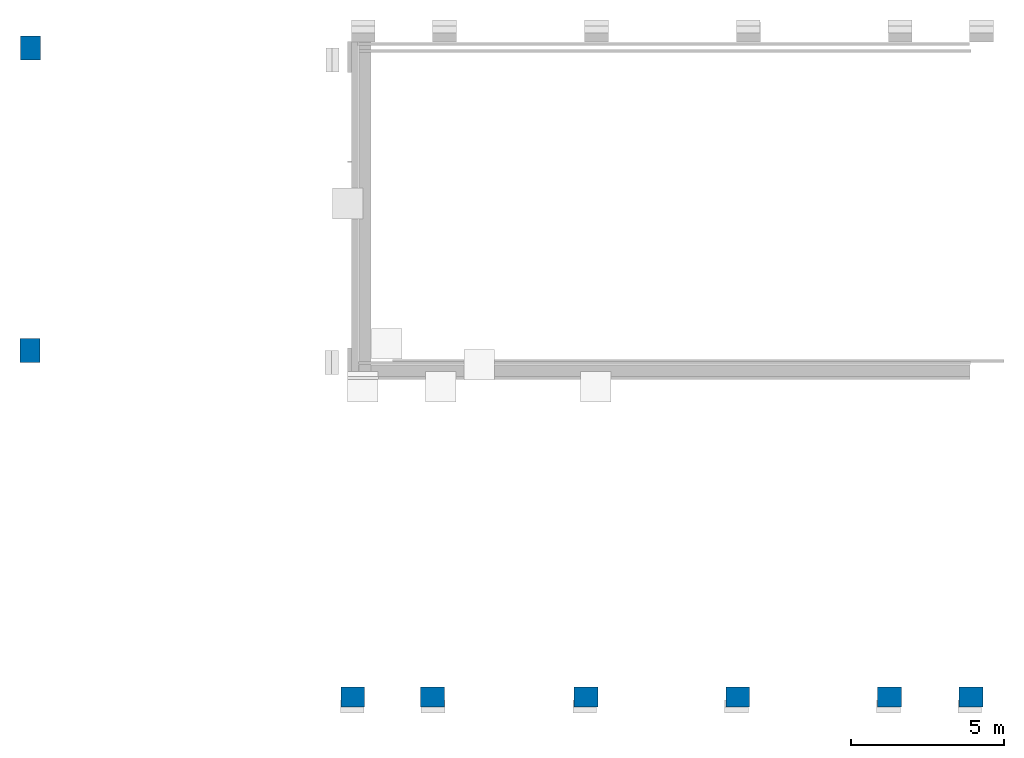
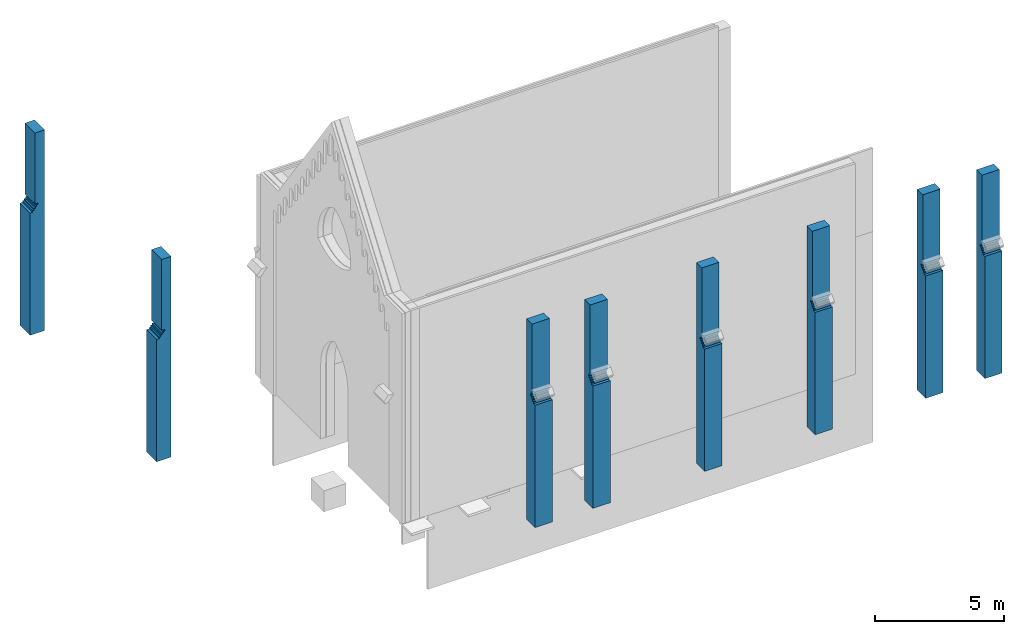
# Not in any storey, part 2 of 5: 8 walls.
"""IFC4 model written with IfcOpenShell, lengths in metres."""

import ifcopenshell
import ifcopenshell.guid

model = None  # the IFC model being written
_history = None  # IfcOwnerHistory: only IFC2X3 demands one
_inside = {}  # id of a spatial element -> (the spatial element, [elements in it])
_under = {}  # id of a project, library or spatial element -> (it, [spatial elements below it])
_declared = {}  # id of a project -> (the project, [libraries it declares])
_typed = {}  # id of a type object -> (the type object, [elements of that type])
_made_of = {}  # id of a material, layer set ... -> (it, [elements and type objects made of it])


def new_model(schema):
    """Start an empty IFC model of exactly this schema.

    Asked for "IFC4X3", IfcOpenShell would pick the latest addendum, in which some entities
    have other attributes; the version numbers below select the first issue.
    IFC2X3 requires an IfcOwnerHistory on every rooted entity: one is made here for all.
    """
    global model, _history
    if schema == "IFC4X3":
        model = ifcopenshell.file(schema_version=(4, 3, 0, 0))
    else:
        model = ifcopenshell.file(schema=schema)
    _inside.clear()
    _under.clear()
    _declared.clear()
    _typed.clear()
    _made_of.clear()
    _history = None
    if model.schema == "IFC2X3":
        org = make("IfcOrganization", Name="unknown")
        user = make(
            "IfcPersonAndOrganization",
            ThePerson=make("IfcPerson", FamilyName="unknown"),
            TheOrganization=org,
        )
        app = make(
            "IfcApplication",
            ApplicationDeveloper=org,
            Version="unknown",
            ApplicationFullName="unknown",
            ApplicationIdentifier="unknown",
        )
        _history = make(
            "IfcOwnerHistory",
            OwningUser=user,
            OwningApplication=app,
            ChangeAction="ADDED",
            CreationDate=0,
        )
    return model


def make(cls, **values):
    """One entity of the class cls with the attributes given. An attribute that is None is left unset."""
    return model.create_entity(
        cls, **{name: value for name, value in values.items() if value is not None}
    )


def entity(cls, *values):
    """Any entity or typed value of the class cls, its attributes in the order of the schema. None: left unset."""
    e = model.create_entity(cls)
    for i, value in enumerate(values):
        if value is not None:
            e[i] = value
    return e


def rooted(cls, **values):
    """An entity with a GlobalId (a new one), such as an element, a storey or a relation."""
    return make(cls, GlobalId=ifcopenshell.guid.new(), OwnerHistory=_history, **values)


def si_unit(unit_type, name, prefix=None):
    """IfcSIUnit, for example si_unit("LENGTHUNIT", "METRE", prefix="MILLI")."""
    return make("IfcSIUnit", UnitType=unit_type, Prefix=prefix, Name=name)


def converted_unit(unit_type, name, factor, base, dimensions=None, offset=None):
    """IfcConversionBasedUnit, such as the inch: factor (a typed value) times the base unit."""
    return make(
        "IfcConversionBasedUnit"
        if offset is None
        else "IfcConversionBasedUnitWithOffset",
        ConversionOffset=offset,
        Dimensions=None
        if dimensions is None
        else entity("IfcDimensionalExponents", *dimensions),
        UnitType=unit_type,
        Name=name,
        ConversionFactor=make(
            "IfcMeasureWithUnit", ValueComponent=factor, UnitComponent=base
        ),
    )


def assignment(units):
    """IfcUnitAssignment: the units of a project."""
    return None if units is None else make("IfcUnitAssignment", Units=units)


def point(xyz):
    """IfcCartesianPoint."""
    return None if xyz is None else make("IfcCartesianPoint", Coordinates=xyz)


def direction(xyz):
    """IfcDirection."""
    return None if xyz is None else make("IfcDirection", DirectionRatios=xyz)


def frame(location, z_axis=None, x_axis=None):
    """IfcAxis2Placement3D, a coordinate frame: its origin and axes. An axis left out is left unset."""
    return make(
        "IfcAxis2Placement3D",
        Location=point(location),
        Axis=direction(z_axis),
        RefDirection=direction(x_axis),
    )


def frame_2d(location, x_axis=None):
    """IfcAxis2Placement2D, a coordinate frame in the plane: its origin and x axis."""
    return make(
        "IfcAxis2Placement2D", Location=point(location), RefDirection=direction(x_axis)
    )


def origin_with_axes():
    """The frame at (0, 0, 0) with the z axis (0, 0, 1) and the x axis (1, 0, 0) written out."""
    return frame((0.0, 0.0, 0.0), z_axis=(0.0, 0.0, 1.0), x_axis=(1.0, 0.0, 0.0))


def origin_2d_with_axis():
    """The frame at (0, 0) in the plane with the x axis (1, 0) written out."""
    return frame_2d((0.0, 0.0), x_axis=(1.0, 0.0))


def place(relative_to, where):
    """IfcLocalPlacement: puts the frame where relative to a parent placement (None: the world)."""
    return make(
        "IfcLocalPlacement", PlacementRelTo=relative_to, RelativePlacement=where
    )


def context(
    kind, dimensions, precision=None, world=None, true_north=None, identifier=None
):
    """IfcGeometricRepresentationContext, for example the 3D "Model" context."""
    return make(
        "IfcGeometricRepresentationContext",
        ContextIdentifier=identifier,
        ContextType=kind,
        CoordinateSpaceDimension=dimensions,
        Precision=precision,
        WorldCoordinateSystem=world,
        TrueNorth=true_north,
    )


def subcontext(parent, identifier, kind, view, scale=None):
    """IfcGeometricRepresentationSubContext, for example "Body" below "Model"."""
    return make(
        "IfcGeometricRepresentationSubContext",
        ContextIdentifier=identifier,
        ContextType=kind,
        ParentContext=parent,
        TargetScale=scale,
        TargetView=view,
    )


def project(units=None, contexts=None):
    """IfcProject with its units and contexts."""
    return rooted(
        "IfcProject",
        Name="project",
        RepresentationContexts=contexts,
        UnitsInContext=assignment(units),
    )


def point_list(points):
    """IfcCartesianPointList2D or 3D."""
    cls = (
        "IfcCartesianPointList2D" if len(points[0]) == 2 else "IfcCartesianPointList3D"
    )
    return make(cls, CoordList=points)


def polygons(points, faces, closed=None, point_numbers=None):
    """IfcPolygonalFaceSet: a face is its outer loop, then its inner loops; points numbered from 1."""
    made = []
    for loops in faces:
        if len(loops) == 1:
            made.append(make("IfcIndexedPolygonalFace", CoordIndex=loops[0]))
        else:
            made.append(
                make(
                    "IfcIndexedPolygonalFaceWithVoids",
                    CoordIndex=loops[0],
                    InnerCoordIndices=loops[1:],
                )
            )
    return make(
        "IfcPolygonalFaceSet",
        Coordinates=point_list(points),
        Closed=closed,
        Faces=made,
        PnIndex=point_numbers,
    )


def shape(context_of_items, identifier, shape_type, items):
    """IfcShapeRepresentation: the items that make up one representation, for example the "Body"."""
    return make(
        "IfcShapeRepresentation",
        ContextOfItems=context_of_items,
        RepresentationIdentifier=identifier,
        RepresentationType=shape_type,
        Items=items,
    )


def made_of(thing, what):
    """Note that an element or type object is made of a material, layer set ...; save() writes the relation."""
    if what is not None:
        _made_of.setdefault(what.id(), (what, []))[1].append(thing)
    return thing


def element(
    cls,
    number,
    at=None,
    inside=None,
    cuts=None,
    type_object=None,
    material=None,
    context=None,
    identifier="Body",
    shape_type=None,
    held_by="IfcProductDefinitionShape",
    body=None,
    shapes=None,
    **own,
):
    """One element of the class cls, such as IfcWall. Its Tag is "e" and its number.

    at: its placement. inside: the storey or other place that contains it. cuts: it is an
    opening in that element (IfcRelVoidsElement). A single representation is given by context,
    identifier, shape_type and body (its items); several are given by shapes. held_by: the class
    of the entity that holds the representations. save() writes the other relations.
    """
    e = rooted(cls, Tag="e%d" % number, ObjectPlacement=at, **own)
    if body is not None:
        shapes = [shape(context, identifier, shape_type, body)]
    if shapes is not None:
        e.Representation = make(held_by, Representations=shapes)
    if inside is not None:
        _inside.setdefault(inside.id(), (inside, []))[1].append(e)
    if cuts is not None:
        rooted(
            "IfcRelVoidsElement", RelatingBuildingElement=cuts, RelatedOpeningElement=e
        )
    if type_object is not None:
        _typed.setdefault(type_object.id(), (type_object, []))[1].append(e)
    return made_of(e, material)


def aggregate(whole, parts):
    """IfcRelAggregates: a whole, such as a stair, and the parts it consists of."""
    return rooted("IfcRelAggregates", RelatingObject=whole, RelatedObjects=parts)


def save(model, path):
    """Write the relations noted so far, then the file.

    IfcRelAggregates (storeys below a building ...), IfcRelContainedInSpatialStructure (elements
    in a storey), IfcRelDefinesByType, IfcRelAssociatesMaterial and IfcRelDeclares: one each for
    every whole, place, type object, material and project.
    """
    for whole, parts in _under.values():
        aggregate(whole, parts)
    for where, things in _inside.values():
        rooted(
            "IfcRelContainedInSpatialStructure",
            RelatedElements=things,
            RelatingStructure=where,
        )
    for kind, things in _typed.values():
        rooted("IfcRelDefinesByType", RelatedObjects=things, RelatingType=kind)
    for what, things in _made_of.values():
        rooted("IfcRelAssociatesMaterial", RelatedObjects=things, RelatingMaterial=what)
    for by, libraries in _declared.values():
        rooted("IfcRelDeclares", RelatingContext=by, RelatedDefinitions=libraries)
    model.write(path)


model = new_model("IFC4")

# Units and contexts
model_context = context("Model", 3, precision=1e-05, world=origin_with_axes())
plan_context = context("Plan", 2, precision=1e-05, world=origin_2d_with_axis())
body_context = subcontext(model_context, "Body", "Model", "MODEL_VIEW")
ifc_project = project(units=[si_unit("LENGTHUNIT", "METRE"), converted_unit("PLANEANGLEUNIT", "degree", entity("IfcReal", 0.0174532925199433), si_unit("PLANEANGLEUNIT", "RADIAN"), dimensions=[0, 0, 0, 0, 0, 0, 0]), si_unit("AREAUNIT", "SQUARE_METRE"), si_unit("VOLUMEUNIT", "CUBIC_METRE")], contexts=[model_context, plan_context])

# Walls
wall_1_placement = place(None, frame((0.552255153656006, -0.391685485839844, 5.73322343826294), z_axis=(-0.999999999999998, 4.37113882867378e-08, -4.37113882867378e-08), x_axis=(-4.37113882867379e-08, -0.999999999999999, 0.0)))
element("IfcWall", 1, at=wall_1_placement, Name="Buttress_west_01", PredefinedType="SOLIDWALL", context=body_context, shape_type="Tessellation", body=[
    polygons([(9.65258884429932, 10.1823081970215, 0.0), (9.94387245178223, 6.81891202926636, 0.0), (10.0838308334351, 10.1823081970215, 0.0), (9.65258884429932, 10.1823081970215, 0.779999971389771), (10.0838308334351, 10.1823081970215, 0.779999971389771), (9.94387245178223, 6.81891202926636, 0.779999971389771), (9.94387245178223, 6.74691295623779, 0.0), (9.65338706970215, 0.649991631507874, 0.0), (10.0838308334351, 6.81891202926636, 0.0), (10.0038709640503, 6.74691295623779, 0.0), (10.0038709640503, 6.67491388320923, 0.0), (10.0638704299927, 6.67491388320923, 0.0), (10.0638704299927, 6.60291481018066, 0.0), (10.1238698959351, 6.60291481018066, 0.0), (10.1238698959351, 6.5309157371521, 0.0), (10.1838684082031, 6.5309157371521, 0.0), (10.1838684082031, 6.45891666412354, 0.0), (10.3038673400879, 6.45891666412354, 0.0), (10.3038673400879, 0.649991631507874, 0.0), (9.65338706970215, 0.649991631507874, 0.779999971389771), (9.94387245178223, 6.74691295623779, 0.779999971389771), (10.0838308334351, 6.81891202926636, 0.779999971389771), (10.0038709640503, 6.67491388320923, 0.779999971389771), (10.0038709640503, 6.74691295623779, 0.779999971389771), (10.0638704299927, 6.60291481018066, 0.779999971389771), (10.0638704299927, 6.67491388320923, 0.779999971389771), (10.1238698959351, 6.5309157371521, 0.779999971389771), (10.1238698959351, 6.60291481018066, 0.779999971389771), (10.1838684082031, 6.45891666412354, 0.779999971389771), (10.1838684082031, 6.5309157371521, 0.779999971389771), (10.3038673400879, 0.649991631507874, 0.779999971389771), (10.3038673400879, 6.45891666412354, 0.779999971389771)], [[[1, 3, 2]], [[5, 4, 6]], [[8, 1, 7]], [[3, 9, 2]], [[7, 10, 11]], [[7, 11, 8]], [[11, 12, 13]], [[11, 13, 8]], [[13, 14, 15]], [[13, 15, 8]], [[15, 16, 17]], [[15, 17, 8]], [[17, 18, 19]], [[17, 19, 8]], [[7, 1, 2]], [[4, 20, 21]], [[5, 6, 22]], [[21, 23, 24]], [[21, 20, 23]], [[26, 23, 25]], [[23, 20, 25]], [[28, 25, 27]], [[25, 20, 27]], [[30, 27, 29]], [[27, 20, 29]], [[32, 29, 31]], [[29, 20, 31]], [[4, 21, 6]], [[26, 25, 13]], [[26, 13, 12]], [[3, 1, 4]], [[3, 4, 5]], [[20, 4, 1]], [[20, 1, 8]], [[14, 13, 25]], [[14, 25, 28]], [[5, 22, 9]], [[5, 9, 3]], [[27, 15, 14]], [[27, 14, 28]], [[2, 9, 22]], [[2, 22, 6]], [[16, 15, 27]], [[16, 27, 30]], [[21, 7, 2]], [[21, 2, 6]], [[30, 29, 17]], [[30, 17, 16]], [[24, 10, 7]], [[24, 7, 21]], [[18, 17, 29]], [[18, 29, 32]], [[24, 23, 11]], [[24, 11, 10]], [[31, 19, 18]], [[31, 18, 32]], [[26, 12, 11]], [[26, 11, 23]], [[19, 20, 8]], [[19, 31, 20]]], closed=True),
])
wall_2_placement = place(None, frame((-0.411516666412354, 0.564524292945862, 5.70478010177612), z_axis=(3.89414367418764e-07, 0.999999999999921, 7.54979012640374e-08), x_axis=(-0.999999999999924, 3.89414367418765e-07, 0.0)))
element("IfcWall", 2, at=wall_2_placement, Name="Buttress_north_01", PredefinedType="SOLIDWALL", context=body_context, shape_type="Tessellation", body=[
    polygons([(9.65258884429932, 10.1823081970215, 0.0), (9.94387245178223, 6.81891202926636, 0.0), (10.0838308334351, 10.1823081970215, 0.0), (9.65258884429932, 10.1823081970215, 0.779999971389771), (10.0838308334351, 10.1823081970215, 0.779999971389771), (9.94387245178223, 6.81891202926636, 0.779999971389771), (9.94387245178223, 6.74691295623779, 0.0), (9.65338706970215, 0.649991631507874, 0.0), (10.0838308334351, 6.81891202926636, 0.0), (10.0038709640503, 6.74691295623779, 0.0), (10.0038709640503, 6.67491388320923, 0.0), (10.0638704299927, 6.67491388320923, 0.0), (10.0638704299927, 6.60291481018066, 0.0), (10.1238698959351, 6.60291481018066, 0.0), (10.1238698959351, 6.5309157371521, 0.0), (10.1838684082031, 6.5309157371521, 0.0), (10.1838684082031, 6.45891666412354, 0.0), (10.3038673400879, 6.45891666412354, 0.0), (10.3038673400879, 0.649991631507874, 0.0), (9.65338706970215, 0.649991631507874, 0.779999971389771), (9.94387245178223, 6.74691295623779, 0.779999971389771), (10.0838308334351, 6.81891202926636, 0.779999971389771), (10.0038709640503, 6.67491388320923, 0.779999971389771), (10.0038709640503, 6.74691295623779, 0.779999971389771), (10.0638704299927, 6.60291481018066, 0.779999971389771), (10.0638704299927, 6.67491388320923, 0.779999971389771), (10.1238698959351, 6.5309157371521, 0.779999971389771), (10.1238698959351, 6.60291481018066, 0.779999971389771), (10.1838684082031, 6.45891666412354, 0.779999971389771), (10.1838684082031, 6.5309157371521, 0.779999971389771), (10.3038673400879, 0.649991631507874, 0.779999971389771), (10.3038673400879, 6.45891666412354, 0.779999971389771)], [[[1, 3, 2]], [[5, 4, 6]], [[8, 1, 7]], [[3, 9, 2]], [[7, 10, 11]], [[7, 11, 8]], [[11, 12, 13]], [[11, 13, 8]], [[13, 14, 15]], [[13, 15, 8]], [[15, 16, 17]], [[15, 17, 8]], [[17, 18, 19]], [[17, 19, 8]], [[7, 1, 2]], [[4, 20, 21]], [[5, 6, 22]], [[21, 23, 24]], [[21, 20, 23]], [[26, 23, 25]], [[23, 20, 25]], [[28, 25, 27]], [[25, 20, 27]], [[30, 27, 29]], [[27, 20, 29]], [[32, 29, 31]], [[29, 20, 31]], [[4, 21, 6]], [[26, 25, 13]], [[26, 13, 12]], [[3, 1, 4]], [[3, 4, 5]], [[20, 4, 1]], [[20, 1, 8]], [[14, 13, 25]], [[14, 25, 28]], [[5, 22, 9]], [[5, 9, 3]], [[27, 15, 14]], [[27, 14, 28]], [[2, 9, 22]], [[2, 22, 6]], [[16, 15, 27]], [[16, 27, 30]], [[21, 7, 2]], [[21, 2, 6]], [[30, 29, 17]], [[30, 17, 16]], [[24, 10, 7]], [[24, 7, 21]], [[18, 17, 29]], [[18, 29, 32]], [[24, 23, 11]], [[24, 11, 10]], [[31, 19, 18]], [[31, 18, 32]], [[26, 12, 11]], [[26, 11, 23]], [[19, 20, 8]], [[19, 31, 20]]], closed=True),
])
wall_3_placement = place(None, frame((-0.393206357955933, 10.4555606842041, 5.70478010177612), z_axis=(3.89414367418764e-07, 0.999999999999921, 7.54979012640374e-08), x_axis=(-0.999999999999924, 3.89414367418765e-07, 0.0)))
element("IfcWall", 3, at=wall_3_placement, Name="Buttress_north_01.001", PredefinedType="SOLIDWALL", context=body_context, shape_type="Tessellation", body=[
    polygons([(9.65258884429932, 10.1823081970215, 0.0), (9.94387245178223, 6.81891202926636, 0.0), (10.0838308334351, 10.1823081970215, 0.0), (9.65258884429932, 10.1823081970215, 0.779999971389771), (10.0838308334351, 10.1823081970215, 0.779999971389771), (9.94387245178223, 6.81891202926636, 0.779999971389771), (9.94387245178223, 6.74691295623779, 0.0), (9.65338706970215, 0.649991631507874, 0.0), (10.0838308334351, 6.81891202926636, 0.0), (10.0038709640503, 6.74691295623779, 0.0), (10.0038709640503, 6.67491388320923, 0.0), (10.0638704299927, 6.67491388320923, 0.0), (10.0638704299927, 6.60291481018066, 0.0), (10.1238698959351, 6.60291481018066, 0.0), (10.1238698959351, 6.5309157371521, 0.0), (10.1838684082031, 6.5309157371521, 0.0), (10.1838684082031, 6.45891666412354, 0.0), (10.3038673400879, 6.45891666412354, 0.0), (10.3038673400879, 0.649991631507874, 0.0), (9.65338706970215, 0.649991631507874, 0.779999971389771), (9.94387245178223, 6.74691295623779, 0.779999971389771), (10.0838308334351, 6.81891202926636, 0.779999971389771), (10.0038709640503, 6.67491388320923, 0.779999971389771), (10.0038709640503, 6.74691295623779, 0.779999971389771), (10.0638704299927, 6.60291481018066, 0.779999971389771), (10.0638704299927, 6.67491388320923, 0.779999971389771), (10.1238698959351, 6.5309157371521, 0.779999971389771), (10.1238698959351, 6.60291481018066, 0.779999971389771), (10.1838684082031, 6.45891666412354, 0.779999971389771), (10.1838684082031, 6.5309157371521, 0.779999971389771), (10.3038673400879, 0.649991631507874, 0.779999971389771), (10.3038673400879, 6.45891666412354, 0.779999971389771)], [[[1, 3, 2]], [[5, 4, 6]], [[8, 1, 7]], [[3, 9, 2]], [[7, 10, 11]], [[7, 11, 8]], [[11, 12, 13]], [[11, 13, 8]], [[13, 14, 15]], [[13, 15, 8]], [[15, 16, 17]], [[15, 17, 8]], [[17, 18, 19]], [[17, 19, 8]], [[7, 1, 2]], [[4, 20, 21]], [[5, 6, 22]], [[21, 23, 24]], [[21, 20, 23]], [[26, 23, 25]], [[23, 20, 25]], [[28, 25, 27]], [[25, 20, 27]], [[30, 27, 29]], [[27, 20, 29]], [[32, 29, 31]], [[29, 20, 31]], [[4, 21, 6]], [[26, 25, 13]], [[26, 13, 12]], [[3, 1, 4]], [[3, 4, 5]], [[20, 4, 1]], [[20, 1, 8]], [[14, 13, 25]], [[14, 25, 28]], [[5, 22, 9]], [[5, 9, 3]], [[27, 15, 14]], [[27, 14, 28]], [[2, 9, 22]], [[2, 22, 6]], [[16, 15, 27]], [[16, 27, 30]], [[21, 7, 2]], [[21, 2, 6]], [[30, 29, 17]], [[30, 17, 16]], [[24, 10, 7]], [[24, 7, 21]], [[18, 17, 29]], [[18, 29, 32]], [[24, 23, 11]], [[24, 11, 10]], [[31, 19, 18]], [[31, 18, 32]], [[26, 12, 11]], [[26, 11, 23]], [[19, 20, 8]], [[19, 31, 20]]], closed=True),
])
wall_4_placement = place(None, frame((3.159099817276, -0.391685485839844, 5.73322343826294), z_axis=(-0.999999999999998, 4.37113882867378e-08, -4.37113882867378e-08), x_axis=(-4.37113882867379e-08, -0.999999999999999, 0.0)))
element("IfcWall", 4, at=wall_4_placement, Name="Buttress_west_02", PredefinedType="SOLIDWALL", context=body_context, shape_type="Tessellation", body=[
    polygons([(9.65258884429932, 10.1823081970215, 0.0), (9.94387245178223, 6.81891202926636, 0.0), (10.0838308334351, 10.1823081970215, 0.0), (9.65258884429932, 10.1823081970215, 0.779999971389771), (10.0838308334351, 10.1823081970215, 0.779999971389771), (9.94387245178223, 6.81891202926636, 0.779999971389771), (9.94387245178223, 6.74691295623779, 0.0), (9.65338706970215, 0.649991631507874, 0.0), (10.0838308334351, 6.81891202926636, 0.0), (10.0038709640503, 6.74691295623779, 0.0), (10.0038709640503, 6.67491388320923, 0.0), (10.0638704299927, 6.67491388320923, 0.0), (10.0638704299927, 6.60291481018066, 0.0), (10.1238698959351, 6.60291481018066, 0.0), (10.1238698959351, 6.5309157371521, 0.0), (10.1838684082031, 6.5309157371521, 0.0), (10.1838684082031, 6.45891666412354, 0.0), (10.3038673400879, 6.45891666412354, 0.0), (10.3038673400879, 0.649991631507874, 0.0), (9.65338706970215, 0.649991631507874, 0.779999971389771), (9.94387245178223, 6.74691295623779, 0.779999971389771), (10.0838308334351, 6.81891202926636, 0.779999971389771), (10.0038709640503, 6.67491388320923, 0.779999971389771), (10.0038709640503, 6.74691295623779, 0.779999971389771), (10.0638704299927, 6.60291481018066, 0.779999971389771), (10.0638704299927, 6.67491388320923, 0.779999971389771), (10.1238698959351, 6.5309157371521, 0.779999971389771), (10.1238698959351, 6.60291481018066, 0.779999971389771), (10.1838684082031, 6.45891666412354, 0.779999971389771), (10.1838684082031, 6.5309157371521, 0.779999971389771), (10.3038673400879, 0.649991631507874, 0.779999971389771), (10.3038673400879, 6.45891666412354, 0.779999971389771)], [[[1, 3, 2]], [[5, 4, 6]], [[8, 1, 7]], [[3, 9, 2]], [[7, 10, 11]], [[7, 11, 8]], [[11, 12, 13]], [[11, 13, 8]], [[13, 14, 15]], [[13, 15, 8]], [[15, 16, 17]], [[15, 17, 8]], [[17, 18, 19]], [[17, 19, 8]], [[7, 1, 2]], [[4, 20, 21]], [[5, 6, 22]], [[21, 23, 24]], [[21, 20, 23]], [[26, 23, 25]], [[23, 20, 25]], [[28, 25, 27]], [[25, 20, 27]], [[30, 27, 29]], [[27, 20, 29]], [[32, 29, 31]], [[29, 20, 31]], [[4, 21, 6]], [[26, 25, 13]], [[26, 13, 12]], [[3, 1, 4]], [[3, 4, 5]], [[20, 4, 1]], [[20, 1, 8]], [[14, 13, 25]], [[14, 25, 28]], [[5, 22, 9]], [[5, 9, 3]], [[27, 15, 14]], [[27, 14, 28]], [[2, 9, 22]], [[2, 22, 6]], [[16, 15, 27]], [[16, 27, 30]], [[21, 7, 2]], [[21, 2, 6]], [[30, 29, 17]], [[30, 17, 16]], [[24, 10, 7]], [[24, 7, 21]], [[18, 17, 29]], [[18, 29, 32]], [[24, 23, 11]], [[24, 11, 10]], [[31, 19, 18]], [[31, 18, 32]], [[26, 12, 11]], [[26, 11, 23]], [[19, 20, 8]], [[19, 31, 20]]], closed=True),
])
wall_5_placement = place(None, frame((8.17725563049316, -0.391685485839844, 5.73322343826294), z_axis=(-0.999999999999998, 4.37113882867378e-08, -4.37113882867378e-08), x_axis=(-4.37113882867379e-08, -0.999999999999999, 0.0)))
element("IfcWall", 5, at=wall_5_placement, Name="Buttress_west_03", PredefinedType="SOLIDWALL", context=body_context, shape_type="Tessellation", body=[
    polygons([(9.65258884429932, 10.1823081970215, 0.0), (9.94387245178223, 6.81891202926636, 0.0), (10.0838308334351, 10.1823081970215, 0.0), (9.65258884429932, 10.1823081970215, 0.779999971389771), (10.0838308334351, 10.1823081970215, 0.779999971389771), (9.94387245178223, 6.81891202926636, 0.779999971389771), (9.94387245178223, 6.74691295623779, 0.0), (9.65338706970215, 0.649991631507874, 0.0), (10.0838308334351, 6.81891202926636, 0.0), (10.0038709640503, 6.74691295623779, 0.0), (10.0038709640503, 6.67491388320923, 0.0), (10.0638704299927, 6.67491388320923, 0.0), (10.0638704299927, 6.60291481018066, 0.0), (10.1238698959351, 6.60291481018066, 0.0), (10.1238698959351, 6.5309157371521, 0.0), (10.1838684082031, 6.5309157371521, 0.0), (10.1838684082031, 6.45891666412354, 0.0), (10.3038673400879, 6.45891666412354, 0.0), (10.3038673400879, 0.649991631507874, 0.0), (9.65338706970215, 0.649991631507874, 0.779999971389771), (9.94387245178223, 6.74691295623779, 0.779999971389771), (10.0838308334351, 6.81891202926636, 0.779999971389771), (10.0038709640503, 6.67491388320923, 0.779999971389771), (10.0038709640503, 6.74691295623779, 0.779999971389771), (10.0638704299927, 6.60291481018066, 0.779999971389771), (10.0638704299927, 6.67491388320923, 0.779999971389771), (10.1238698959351, 6.5309157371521, 0.779999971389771), (10.1238698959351, 6.60291481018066, 0.779999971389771), (10.1838684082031, 6.45891666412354, 0.779999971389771), (10.1838684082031, 6.5309157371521, 0.779999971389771), (10.3038673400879, 0.649991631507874, 0.779999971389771), (10.3038673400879, 6.45891666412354, 0.779999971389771)], [[[1, 3, 2]], [[5, 4, 6]], [[8, 1, 7]], [[3, 9, 2]], [[7, 10, 11]], [[7, 11, 8]], [[11, 12, 13]], [[11, 13, 8]], [[13, 14, 15]], [[13, 15, 8]], [[15, 16, 17]], [[15, 17, 8]], [[17, 18, 19]], [[17, 19, 8]], [[7, 1, 2]], [[4, 20, 21]], [[5, 6, 22]], [[21, 23, 24]], [[21, 20, 23]], [[26, 23, 25]], [[23, 20, 25]], [[28, 25, 27]], [[25, 20, 27]], [[30, 27, 29]], [[27, 20, 29]], [[32, 29, 31]], [[29, 20, 31]], [[4, 21, 6]], [[26, 25, 13]], [[26, 13, 12]], [[3, 1, 4]], [[3, 4, 5]], [[20, 4, 1]], [[20, 1, 8]], [[14, 13, 25]], [[14, 25, 28]], [[5, 22, 9]], [[5, 9, 3]], [[27, 15, 14]], [[27, 14, 28]], [[2, 9, 22]], [[2, 22, 6]], [[16, 15, 27]], [[16, 27, 30]], [[21, 7, 2]], [[21, 2, 6]], [[30, 29, 17]], [[30, 17, 16]], [[24, 10, 7]], [[24, 7, 21]], [[18, 17, 29]], [[18, 29, 32]], [[24, 23, 11]], [[24, 11, 10]], [[31, 19, 18]], [[31, 18, 32]], [[26, 12, 11]], [[26, 11, 23]], [[19, 20, 8]], [[19, 31, 20]]], closed=True),
])
wall_6_placement = place(None, frame((13.1422557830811, -0.391685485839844, 5.73322343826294), z_axis=(-0.999999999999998, 4.37113882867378e-08, -4.37113882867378e-08), x_axis=(-4.37113882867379e-08, -0.999999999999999, 0.0)))
element("IfcWall", 6, at=wall_6_placement, Name="Buttress_west_04", PredefinedType="SOLIDWALL", context=body_context, shape_type="Tessellation", body=[
    polygons([(9.65258884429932, 10.1823081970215, 0.0), (9.94387245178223, 6.81891202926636, 0.0), (10.0838308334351, 10.1823081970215, 0.0), (9.65258884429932, 10.1823081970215, 0.779999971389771), (10.0838308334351, 10.1823081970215, 0.779999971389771), (9.94387245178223, 6.81891202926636, 0.779999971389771), (9.94387245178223, 6.74691295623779, 0.0), (9.65338706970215, 0.649991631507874, 0.0), (10.0838308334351, 6.81891202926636, 0.0), (10.0038709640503, 6.74691295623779, 0.0), (10.0038709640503, 6.67491388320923, 0.0), (10.0638704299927, 6.67491388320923, 0.0), (10.0638704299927, 6.60291481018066, 0.0), (10.1238698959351, 6.60291481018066, 0.0), (10.1238698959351, 6.5309157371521, 0.0), (10.1838684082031, 6.5309157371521, 0.0), (10.1838684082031, 6.45891666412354, 0.0), (10.3038673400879, 6.45891666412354, 0.0), (10.3038673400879, 0.649991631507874, 0.0), (9.65338706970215, 0.649991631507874, 0.779999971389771), (9.94387245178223, 6.74691295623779, 0.779999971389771), (10.0838308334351, 6.81891202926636, 0.779999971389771), (10.0038709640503, 6.67491388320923, 0.779999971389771), (10.0038709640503, 6.74691295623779, 0.779999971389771), (10.0638704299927, 6.60291481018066, 0.779999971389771), (10.0638704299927, 6.67491388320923, 0.779999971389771), (10.1238698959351, 6.5309157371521, 0.779999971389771), (10.1238698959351, 6.60291481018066, 0.779999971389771), (10.1838684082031, 6.45891666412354, 0.779999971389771), (10.1838684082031, 6.5309157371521, 0.779999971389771), (10.3038673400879, 0.649991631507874, 0.779999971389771), (10.3038673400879, 6.45891666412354, 0.779999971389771)], [[[1, 3, 2]], [[5, 4, 6]], [[8, 1, 7]], [[3, 9, 2]], [[7, 10, 11]], [[7, 11, 8]], [[11, 12, 13]], [[11, 13, 8]], [[13, 14, 15]], [[13, 15, 8]], [[15, 16, 17]], [[15, 17, 8]], [[17, 18, 19]], [[17, 19, 8]], [[7, 1, 2]], [[4, 20, 21]], [[5, 6, 22]], [[21, 23, 24]], [[21, 20, 23]], [[26, 23, 25]], [[23, 20, 25]], [[28, 25, 27]], [[25, 20, 27]], [[30, 27, 29]], [[27, 20, 29]], [[32, 29, 31]], [[29, 20, 31]], [[4, 21, 6]], [[26, 25, 13]], [[26, 13, 12]], [[3, 1, 4]], [[3, 4, 5]], [[20, 4, 1]], [[20, 1, 8]], [[14, 13, 25]], [[14, 25, 28]], [[5, 22, 9]], [[5, 9, 3]], [[27, 15, 14]], [[27, 14, 28]], [[2, 9, 22]], [[2, 22, 6]], [[16, 15, 27]], [[16, 27, 30]], [[21, 7, 2]], [[21, 2, 6]], [[30, 29, 17]], [[30, 17, 16]], [[24, 10, 7]], [[24, 7, 21]], [[18, 17, 29]], [[18, 29, 32]], [[24, 23, 11]], [[24, 11, 10]], [[31, 19, 18]], [[31, 18, 32]], [[26, 12, 11]], [[26, 11, 23]], [[19, 20, 8]], [[19, 31, 20]]], closed=True),
])
wall_7_placement = place(None, frame((18.1022567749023, -0.391685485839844, 5.73322343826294), z_axis=(-0.999999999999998, 4.37113882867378e-08, -4.37113882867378e-08), x_axis=(-4.37113882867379e-08, -0.999999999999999, 0.0)))
element("IfcWall", 7, at=wall_7_placement, Name="Buttress_west_05", PredefinedType="SOLIDWALL", context=body_context, shape_type="Tessellation", body=[
    polygons([(9.65258884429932, 10.1823081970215, 0.0), (9.94387245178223, 6.81891202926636, 0.0), (10.0838308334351, 10.1823081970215, 0.0), (9.65258884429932, 10.1823081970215, 0.779999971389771), (10.0838308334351, 10.1823081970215, 0.779999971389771), (9.94387245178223, 6.81891202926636, 0.779999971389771), (9.94387245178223, 6.74691295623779, 0.0), (9.65338706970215, 0.649991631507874, 0.0), (10.0838308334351, 6.81891202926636, 0.0), (10.0038709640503, 6.74691295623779, 0.0), (10.0038709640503, 6.67491388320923, 0.0), (10.0638704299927, 6.67491388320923, 0.0), (10.0638704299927, 6.60291481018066, 0.0), (10.1238698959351, 6.60291481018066, 0.0), (10.1238698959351, 6.5309157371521, 0.0), (10.1838684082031, 6.5309157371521, 0.0), (10.1838684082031, 6.45891666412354, 0.0), (10.3038673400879, 6.45891666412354, 0.0), (10.3038673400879, 0.649991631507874, 0.0), (9.65338706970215, 0.649991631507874, 0.779999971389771), (9.94387245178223, 6.74691295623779, 0.779999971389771), (10.0838308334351, 6.81891202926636, 0.779999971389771), (10.0038709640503, 6.67491388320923, 0.779999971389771), (10.0038709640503, 6.74691295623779, 0.779999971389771), (10.0638704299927, 6.60291481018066, 0.779999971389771), (10.0638704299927, 6.67491388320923, 0.779999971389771), (10.1238698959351, 6.5309157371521, 0.779999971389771), (10.1238698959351, 6.60291481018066, 0.779999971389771), (10.1838684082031, 6.45891666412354, 0.779999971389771), (10.1838684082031, 6.5309157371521, 0.779999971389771), (10.3038673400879, 0.649991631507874, 0.779999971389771), (10.3038673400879, 6.45891666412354, 0.779999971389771)], [[[1, 3, 2]], [[5, 4, 6]], [[8, 1, 7]], [[3, 9, 2]], [[7, 10, 11]], [[7, 11, 8]], [[11, 12, 13]], [[11, 13, 8]], [[13, 14, 15]], [[13, 15, 8]], [[15, 16, 17]], [[15, 17, 8]], [[17, 18, 19]], [[17, 19, 8]], [[7, 1, 2]], [[4, 20, 21]], [[5, 6, 22]], [[21, 23, 24]], [[21, 20, 23]], [[26, 23, 25]], [[23, 20, 25]], [[28, 25, 27]], [[25, 20, 27]], [[30, 27, 29]], [[27, 20, 29]], [[32, 29, 31]], [[29, 20, 31]], [[4, 21, 6]], [[26, 25, 13]], [[26, 13, 12]], [[3, 1, 4]], [[3, 4, 5]], [[20, 4, 1]], [[20, 1, 8]], [[14, 13, 25]], [[14, 25, 28]], [[5, 22, 9]], [[5, 9, 3]], [[27, 15, 14]], [[27, 14, 28]], [[2, 9, 22]], [[2, 22, 6]], [[16, 15, 27]], [[16, 27, 30]], [[21, 7, 2]], [[21, 2, 6]], [[30, 29, 17]], [[30, 17, 16]], [[24, 10, 7]], [[24, 7, 21]], [[18, 17, 29]], [[18, 29, 32]], [[24, 23, 11]], [[24, 11, 10]], [[31, 19, 18]], [[31, 18, 32]], [[26, 12, 11]], [[26, 11, 23]], [[19, 20, 8]], [[19, 31, 20]]], closed=True),
])
wall_8_placement = place(None, frame((20.7622566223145, -0.391685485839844, 5.73322343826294), z_axis=(-0.999999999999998, 4.37113882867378e-08, -4.37113882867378e-08), x_axis=(-4.37113882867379e-08, -0.999999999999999, 0.0)))
element("IfcWall", 8, at=wall_8_placement, Name="Buttress_west_06", PredefinedType="SOLIDWALL", context=body_context, shape_type="Tessellation", body=[
    polygons([(9.65258884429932, 10.1823081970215, 0.0), (9.94387245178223, 6.81891202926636, 0.0), (10.0838308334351, 10.1823081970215, 0.0), (9.65258884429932, 10.1823081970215, 0.779999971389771), (10.0838308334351, 10.1823081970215, 0.779999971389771), (9.94387245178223, 6.81891202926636, 0.779999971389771), (9.94387245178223, 6.74691295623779, 0.0), (9.65338706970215, 0.649991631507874, 0.0), (10.0838308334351, 6.81891202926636, 0.0), (10.0038709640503, 6.74691295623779, 0.0), (10.0038709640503, 6.67491388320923, 0.0), (10.0638704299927, 6.67491388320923, 0.0), (10.0638704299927, 6.60291481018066, 0.0), (10.1238698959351, 6.60291481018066, 0.0), (10.1238698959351, 6.5309157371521, 0.0), (10.1838684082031, 6.5309157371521, 0.0), (10.1838684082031, 6.45891666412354, 0.0), (10.3038673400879, 6.45891666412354, 0.0), (10.3038673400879, 0.649991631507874, 0.0), (9.65338706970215, 0.649991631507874, 0.779999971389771), (9.94387245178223, 6.74691295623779, 0.779999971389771), (10.0838308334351, 6.81891202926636, 0.779999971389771), (10.0038709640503, 6.67491388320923, 0.779999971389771), (10.0038709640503, 6.74691295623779, 0.779999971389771), (10.0638704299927, 6.60291481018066, 0.779999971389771), (10.0638704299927, 6.67491388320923, 0.779999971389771), (10.1238698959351, 6.5309157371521, 0.779999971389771), (10.1238698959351, 6.60291481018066, 0.779999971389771), (10.1838684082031, 6.45891666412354, 0.779999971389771), (10.1838684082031, 6.5309157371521, 0.779999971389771), (10.3038673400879, 0.649991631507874, 0.779999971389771), (10.3038673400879, 6.45891666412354, 0.779999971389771)], [[[1, 3, 2]], [[5, 4, 6]], [[8, 1, 7]], [[3, 9, 2]], [[7, 10, 11]], [[7, 11, 8]], [[11, 12, 13]], [[11, 13, 8]], [[13, 14, 15]], [[13, 15, 8]], [[15, 16, 17]], [[15, 17, 8]], [[17, 18, 19]], [[17, 19, 8]], [[7, 1, 2]], [[4, 20, 21]], [[5, 6, 22]], [[21, 23, 24]], [[21, 20, 23]], [[26, 23, 25]], [[23, 20, 25]], [[28, 25, 27]], [[25, 20, 27]], [[30, 27, 29]], [[27, 20, 29]], [[32, 29, 31]], [[29, 20, 31]], [[4, 21, 6]], [[26, 25, 13]], [[26, 13, 12]], [[3, 1, 4]], [[3, 4, 5]], [[20, 4, 1]], [[20, 1, 8]], [[14, 13, 25]], [[14, 25, 28]], [[5, 22, 9]], [[5, 9, 3]], [[27, 15, 14]], [[27, 14, 28]], [[2, 9, 22]], [[2, 22, 6]], [[16, 15, 27]], [[16, 27, 30]], [[21, 7, 2]], [[21, 2, 6]], [[30, 29, 17]], [[30, 17, 16]], [[24, 10, 7]], [[24, 7, 21]], [[18, 17, 29]], [[18, 29, 32]], [[24, 23, 11]], [[24, 11, 10]], [[31, 19, 18]], [[31, 18, 32]], [[26, 12, 11]], [[26, 11, 23]], [[19, 20, 8]], [[19, 31, 20]]], closed=True),
])

save(model, "model.ifc")
